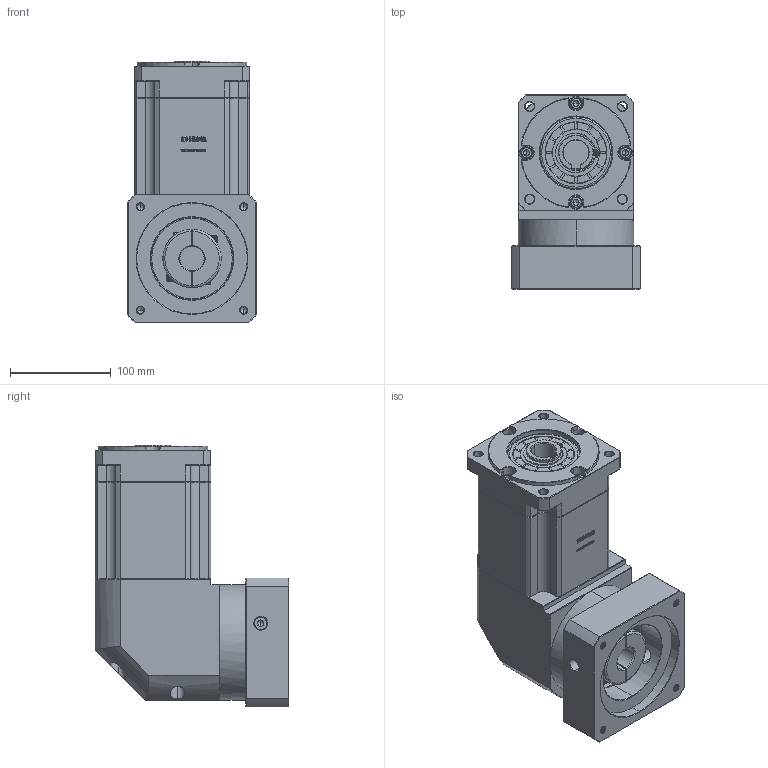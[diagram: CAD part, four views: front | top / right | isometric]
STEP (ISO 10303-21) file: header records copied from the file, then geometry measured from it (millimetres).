
FILE_DESCRIPTION (( 'STEP AP214' ), '1' );
FILE_NAME ('ZBR115A-K25-L3-24-110-145-M8.step', '2023-03-03T05:09:19', ( '' ), ( 'Microsoft' ), 'SwSTEP 2.0', 'SolidWorks 2016', '' );
FILE_SCHEMA (( 'AUTOMOTIVE_DESIGN' ));
Length unit declared in the file: millimetre
Products named in the file (1): ZBR115A-K25-L3-24-110-145-M8
Bounding box: 128 x 192.4 x 260 mm (x, y, z)
Volume: 3653746.4 mm3; surface area: 276410.1 mm2
Topology: 6 solids, 6 shells, 2926 faces, 7776 edges, 4996 vertices
Faces by surface type: plane 1552, bspline 597, cylinder 406, cone 363, torus 8
Entity records: 156413 total; most frequent: CARTESIAN_POINT 56123, ORIENTED_EDGE 15496, DIRECTION 11767, EDGE_CURVE 7748, VECTOR 5255, LINE 5255, VERTEX_POINT 4996, AXIS2_PLACEMENT_3D 3256
